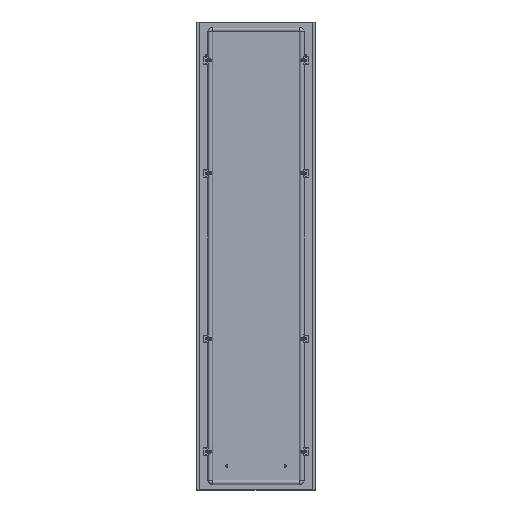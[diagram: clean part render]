
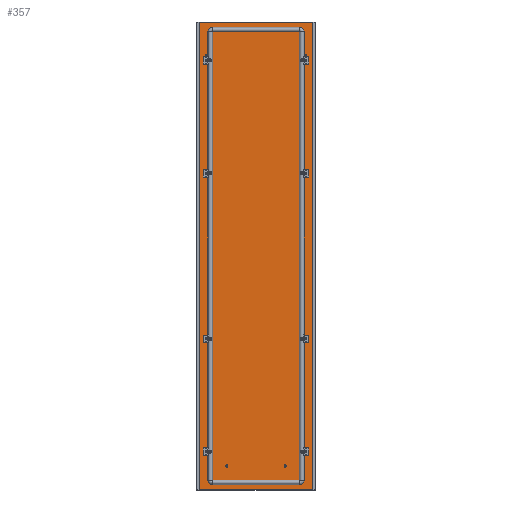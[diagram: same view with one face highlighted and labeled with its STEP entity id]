
A CAD part, top view. The second image highlights one B-rep face of the part: STEP entity #357.
In plain terms, the highlighted planar face has unit normal (0, 0, 1).
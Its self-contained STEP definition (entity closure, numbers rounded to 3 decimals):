
#357 = ADVANCED_FACE('',(#358,#456,#467,#478,#498,#518,#529,#540,#560),
  #580,.F.);
#358 = FACE_BOUND('',#359,.T.);
#359 = EDGE_LOOP('',(#360,#370,#378,#386,#394,#402,#410,#418,#426,#434,
    #442,#450));
#360 = ORIENTED_EDGE('',*,*,#361,.F.);
#361 = EDGE_CURVE('',#362,#364,#366,.T.);
#362 = VERTEX_POINT('',#363);
#363 = CARTESIAN_POINT('',(-195.5,777.5,0.));
#364 = VERTEX_POINT('',#365);
#365 = CARTESIAN_POINT('',(-195.3,777.5,0.));
#366 = LINE('',#367,#368);
#367 = CARTESIAN_POINT('',(0.,777.5,0.
    ));
#368 = VECTOR('',#369,1.);
#369 = DIRECTION('',(1.,0.,0.));
#370 = ORIENTED_EDGE('',*,*,#371,.T.);
#371 = EDGE_CURVE('',#362,#372,#374,.T.);
#372 = VERTEX_POINT('',#373);
#373 = CARTESIAN_POINT('',(-195.5,-777.5,0.));
#374 = LINE('',#375,#376);
#375 = CARTESIAN_POINT('',(-195.5,0.,0.));
#376 = VECTOR('',#377,1.);
#377 = DIRECTION('',(0.,-1.,-0.));
#378 = ORIENTED_EDGE('',*,*,#379,.T.);
#379 = EDGE_CURVE('',#372,#380,#382,.T.);
#380 = VERTEX_POINT('',#381);
#381 = CARTESIAN_POINT('',(-195.3,-777.5,0.));
#382 = LINE('',#383,#384);
#383 = CARTESIAN_POINT('',(0.,-777.5,
    0.));
#384 = VECTOR('',#385,1.);
#385 = DIRECTION('',(1.,-0.,-0.));
#386 = ORIENTED_EDGE('',*,*,#387,.F.);
#387 = EDGE_CURVE('',#388,#380,#390,.T.);
#388 = VERTEX_POINT('',#389);
#389 = CARTESIAN_POINT('',(-195.3,-776.,0.));
#390 = LINE('',#391,#392);
#391 = CARTESIAN_POINT('',(-195.3,0.,0.
    ));
#392 = VECTOR('',#393,1.);
#393 = DIRECTION('',(0.,-1.,0.));
#394 = ORIENTED_EDGE('',*,*,#395,.T.);
#395 = EDGE_CURVE('',#388,#396,#398,.T.);
#396 = VERTEX_POINT('',#397);
#397 = CARTESIAN_POINT('',(195.3,-776.,0.));
#398 = LINE('',#399,#400);
#399 = CARTESIAN_POINT('',(0.,-776.,0.
    ));
#400 = VECTOR('',#401,1.);
#401 = DIRECTION('',(1.,-0.,-0.));
#402 = ORIENTED_EDGE('',*,*,#403,.T.);
#403 = EDGE_CURVE('',#396,#404,#406,.T.);
#404 = VERTEX_POINT('',#405);
#405 = CARTESIAN_POINT('',(195.3,-777.5,0.));
#406 = LINE('',#407,#408);
#407 = CARTESIAN_POINT('',(195.3,-776.,0.));
#408 = VECTOR('',#409,1.);
#409 = DIRECTION('',(0.,-1.,-0.));
#410 = ORIENTED_EDGE('',*,*,#411,.F.);
#411 = EDGE_CURVE('',#412,#404,#414,.T.);
#412 = VERTEX_POINT('',#413);
#413 = CARTESIAN_POINT('',(195.5,-777.5,0.));
#414 = LINE('',#415,#416);
#415 = CARTESIAN_POINT('',(0.,-777.5,
    0.));
#416 = VECTOR('',#417,1.);
#417 = DIRECTION('',(-1.,0.,0.));
#418 = ORIENTED_EDGE('',*,*,#419,.T.);
#419 = EDGE_CURVE('',#412,#420,#422,.T.);
#420 = VERTEX_POINT('',#421);
#421 = CARTESIAN_POINT('',(195.5,777.5,0.));
#422 = LINE('',#423,#424);
#423 = CARTESIAN_POINT('',(195.5,0.,0.));
#424 = VECTOR('',#425,1.);
#425 = DIRECTION('',(-0.,1.,-0.));
#426 = ORIENTED_EDGE('',*,*,#427,.T.);
#427 = EDGE_CURVE('',#420,#428,#430,.T.);
#428 = VERTEX_POINT('',#429);
#429 = CARTESIAN_POINT('',(195.3,777.5,0.));
#430 = LINE('',#431,#432);
#431 = CARTESIAN_POINT('',(0.,777.5,0.
    ));
#432 = VECTOR('',#433,1.);
#433 = DIRECTION('',(-1.,-0.,-0.));
#434 = ORIENTED_EDGE('',*,*,#435,.F.);
#435 = EDGE_CURVE('',#436,#428,#438,.T.);
#436 = VERTEX_POINT('',#437);
#437 = CARTESIAN_POINT('',(195.3,776.,0.));
#438 = LINE('',#439,#440);
#439 = CARTESIAN_POINT('',(195.3,0.,0.
    ));
#440 = VECTOR('',#441,1.);
#441 = DIRECTION('',(0.,1.,0.));
#442 = ORIENTED_EDGE('',*,*,#443,.T.);
#443 = EDGE_CURVE('',#436,#444,#446,.T.);
#444 = VERTEX_POINT('',#445);
#445 = CARTESIAN_POINT('',(-195.3,776.,0.));
#446 = LINE('',#447,#448);
#447 = CARTESIAN_POINT('',(0.,776.,0.)
  );
#448 = VECTOR('',#449,1.);
#449 = DIRECTION('',(-1.,-0.,-0.));
#450 = ORIENTED_EDGE('',*,*,#451,.T.);
#451 = EDGE_CURVE('',#444,#364,#452,.T.);
#452 = LINE('',#453,#454);
#453 = CARTESIAN_POINT('',(-195.3,776.,0.));
#454 = VECTOR('',#455,1.);
#455 = DIRECTION('',(0.,1.,-0.));
#456 = FACE_BOUND('',#457,.T.);
#457 = EDGE_LOOP('',(#458));
#458 = ORIENTED_EDGE('',*,*,#459,.T.);
#459 = EDGE_CURVE('',#460,#460,#462,.T.);
#460 = VERTEX_POINT('',#461);
#461 = CARTESIAN_POINT('',(-164.5,-270.25,
    0.));
#462 = CIRCLE('',#463,4.75);
#463 = AXIS2_PLACEMENT_3D('',#464,#465,#466);
#464 = CARTESIAN_POINT('',(-164.5,-275.,0.));
#465 = DIRECTION('',(0.,0.,-1.));
#466 = DIRECTION('',(0.,1.,0.));
#467 = FACE_BOUND('',#468,.T.);
#468 = EDGE_LOOP('',(#469));
#469 = ORIENTED_EDGE('',*,*,#470,.T.);
#470 = EDGE_CURVE('',#471,#471,#473,.T.);
#471 = VERTEX_POINT('',#472);
#472 = CARTESIAN_POINT('',(164.5,-279.75,
    0.));
#473 = CIRCLE('',#474,4.75);
#474 = AXIS2_PLACEMENT_3D('',#475,#476,#477);
#475 = CARTESIAN_POINT('',(164.5,-275.,0.));
#476 = DIRECTION('',(-0.,0.,-1.));
#477 = DIRECTION('',(0.,-1.,0.));
#478 = FACE_BOUND('',#479,.T.);
#479 = EDGE_LOOP('',(#480,#491));
#480 = ORIENTED_EDGE('',*,*,#481,.F.);
#481 = EDGE_CURVE('',#482,#484,#486,.T.);
#482 = VERTEX_POINT('',#483);
#483 = CARTESIAN_POINT('',(-164.5,654.75,
    0.));
#484 = VERTEX_POINT('',#485);
#485 = CARTESIAN_POINT('',(-164.5,645.25,
    0.));
#486 = CIRCLE('',#487,4.75);
#487 = AXIS2_PLACEMENT_3D('',#488,#489,#490);
#488 = CARTESIAN_POINT('',(-164.5,650.,0.));
#489 = DIRECTION('',(0.,0.,1.));
#490 = DIRECTION('',(0.,1.,0.));
#491 = ORIENTED_EDGE('',*,*,#492,.F.);
#492 = EDGE_CURVE('',#484,#482,#493,.T.);
#493 = CIRCLE('',#494,4.75);
#494 = AXIS2_PLACEMENT_3D('',#495,#496,#497);
#495 = CARTESIAN_POINT('',(-164.5,650.,0.));
#496 = DIRECTION('',(0.,0.,1.));
#497 = DIRECTION('',(0.,1.,0.));
#498 = FACE_BOUND('',#499,.T.);
#499 = EDGE_LOOP('',(#500,#511));
#500 = ORIENTED_EDGE('',*,*,#501,.F.);
#501 = EDGE_CURVE('',#502,#504,#506,.T.);
#502 = VERTEX_POINT('',#503);
#503 = CARTESIAN_POINT('',(164.5,645.25,
    0.));
#504 = VERTEX_POINT('',#505);
#505 = CARTESIAN_POINT('',(164.5,654.75,
    0.));
#506 = CIRCLE('',#507,4.75);
#507 = AXIS2_PLACEMENT_3D('',#508,#509,#510);
#508 = CARTESIAN_POINT('',(164.5,650.,0.));
#509 = DIRECTION('',(0.,0.,1.));
#510 = DIRECTION('',(0.,-1.,0.));
#511 = ORIENTED_EDGE('',*,*,#512,.F.);
#512 = EDGE_CURVE('',#504,#502,#513,.T.);
#513 = CIRCLE('',#514,4.75);
#514 = AXIS2_PLACEMENT_3D('',#515,#516,#517);
#515 = CARTESIAN_POINT('',(164.5,650.,0.));
#516 = DIRECTION('',(0.,0.,1.));
#517 = DIRECTION('',(0.,-1.,0.));
#518 = FACE_BOUND('',#519,.T.);
#519 = EDGE_LOOP('',(#520));
#520 = ORIENTED_EDGE('',*,*,#521,.T.);
#521 = EDGE_CURVE('',#522,#522,#524,.T.);
#522 = VERTEX_POINT('',#523);
#523 = CARTESIAN_POINT('',(-164.5,-645.25,
    0.));
#524 = CIRCLE('',#525,4.75);
#525 = AXIS2_PLACEMENT_3D('',#526,#527,#528);
#526 = CARTESIAN_POINT('',(-164.5,-650.,0.));
#527 = DIRECTION('',(0.,0.,-1.));
#528 = DIRECTION('',(0.,1.,0.));
#529 = FACE_BOUND('',#530,.T.);
#530 = EDGE_LOOP('',(#531));
#531 = ORIENTED_EDGE('',*,*,#532,.T.);
#532 = EDGE_CURVE('',#533,#533,#535,.T.);
#533 = VERTEX_POINT('',#534);
#534 = CARTESIAN_POINT('',(164.5,-654.75,
    0.));
#535 = CIRCLE('',#536,4.75);
#536 = AXIS2_PLACEMENT_3D('',#537,#538,#539);
#537 = CARTESIAN_POINT('',(164.5,-650.,0.));
#538 = DIRECTION('',(-0.,0.,-1.));
#539 = DIRECTION('',(0.,-1.,0.));
#540 = FACE_BOUND('',#541,.T.);
#541 = EDGE_LOOP('',(#542,#553));
#542 = ORIENTED_EDGE('',*,*,#543,.F.);
#543 = EDGE_CURVE('',#544,#546,#548,.T.);
#544 = VERTEX_POINT('',#545);
#545 = CARTESIAN_POINT('',(164.5,270.25,
    0.));
#546 = VERTEX_POINT('',#547);
#547 = CARTESIAN_POINT('',(164.5,279.75,
    0.));
#548 = CIRCLE('',#549,4.75);
#549 = AXIS2_PLACEMENT_3D('',#550,#551,#552);
#550 = CARTESIAN_POINT('',(164.5,275.,0.));
#551 = DIRECTION('',(0.,0.,1.));
#552 = DIRECTION('',(0.,-1.,0.));
#553 = ORIENTED_EDGE('',*,*,#554,.F.);
#554 = EDGE_CURVE('',#546,#544,#555,.T.);
#555 = CIRCLE('',#556,4.75);
#556 = AXIS2_PLACEMENT_3D('',#557,#558,#559);
#557 = CARTESIAN_POINT('',(164.5,275.,0.));
#558 = DIRECTION('',(0.,0.,1.));
#559 = DIRECTION('',(0.,-1.,0.));
#560 = FACE_BOUND('',#561,.T.);
#561 = EDGE_LOOP('',(#562,#573));
#562 = ORIENTED_EDGE('',*,*,#563,.F.);
#563 = EDGE_CURVE('',#564,#566,#568,.T.);
#564 = VERTEX_POINT('',#565);
#565 = CARTESIAN_POINT('',(-164.5,279.75,
    0.));
#566 = VERTEX_POINT('',#567);
#567 = CARTESIAN_POINT('',(-164.5,270.25,
    0.));
#568 = CIRCLE('',#569,4.75);
#569 = AXIS2_PLACEMENT_3D('',#570,#571,#572);
#570 = CARTESIAN_POINT('',(-164.5,275.,0.));
#571 = DIRECTION('',(0.,0.,1.));
#572 = DIRECTION('',(0.,1.,0.));
#573 = ORIENTED_EDGE('',*,*,#574,.F.);
#574 = EDGE_CURVE('',#566,#564,#575,.T.);
#575 = CIRCLE('',#576,4.75);
#576 = AXIS2_PLACEMENT_3D('',#577,#578,#579);
#577 = CARTESIAN_POINT('',(-164.5,275.,0.));
#578 = DIRECTION('',(0.,0.,1.));
#579 = DIRECTION('',(0.,1.,0.));
#580 = PLANE('',#581);
#581 = AXIS2_PLACEMENT_3D('',#582,#583,#584);
#582 = CARTESIAN_POINT('',(0.,0.,0.));
#583 = DIRECTION('',(0.,0.,-1.));
#584 = DIRECTION('',(-1.,0.,0.));
